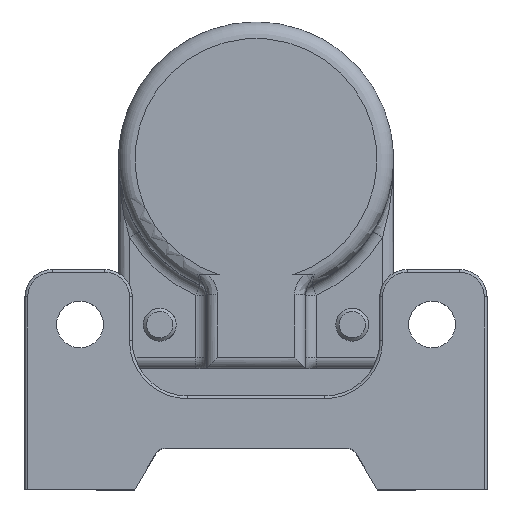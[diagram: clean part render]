
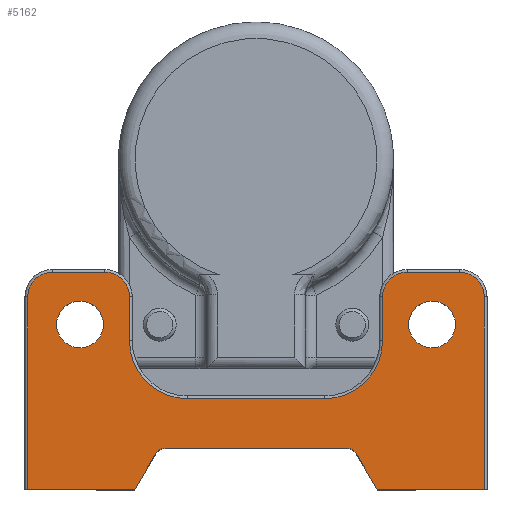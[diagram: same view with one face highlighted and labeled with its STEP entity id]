
A CAD part, top view. The second image highlights one B-rep face of the part: STEP entity #5162.
In plain terms, the highlighted planar face has unit normal (0, 0, 1).
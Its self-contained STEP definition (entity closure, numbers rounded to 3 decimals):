
#179=FACE_BOUND('',#711,.T.);
#180=FACE_BOUND('',#712,.T.);
#241=PLANE('',#5572);
#410=FACE_OUTER_BOUND('',#710,.T.);
#710=EDGE_LOOP('',(#3586,#3587,#3588,#3589,#3590,#3591,#3592,#3593,#3594,
#3595,#3596,#3597,#3598,#3599,#3600,#3601,#3602,#3603,#3604,#3605));
#711=EDGE_LOOP('',(#3606));
#712=EDGE_LOOP('',(#3607));
#987=LINE('',#7720,#1329);
#990=LINE('',#7730,#1332);
#1000=LINE('',#7773,#1342);
#1031=LINE('',#7896,#1373);
#1075=LINE('',#8099,#1417);
#1076=LINE('',#8103,#1418);
#1077=LINE('',#8107,#1419);
#1078=LINE('',#8111,#1420);
#1079=LINE('',#8115,#1421);
#1080=LINE('',#8119,#1422);
#1081=LINE('',#8122,#1423);
#1082=LINE('',#8123,#1424);
#1329=VECTOR('',#6156,10.);
#1332=VECTOR('',#6165,10.);
#1342=VECTOR('',#6189,10.);
#1373=VECTOR('',#6292,10.);
#1417=VECTOR('',#6482,10.);
#1418=VECTOR('',#6485,10.);
#1419=VECTOR('',#6488,10.);
#1420=VECTOR('',#6491,10.);
#1421=VECTOR('',#6494,10.);
#1422=VECTOR('',#6497,10.);
#1423=VECTOR('',#6500,10.);
#1424=VECTOR('',#6501,10.);
#1676=CIRCLE('',#5462,2.);
#1678=CIRCLE('',#5466,4.25);
#1680=CIRCLE('',#5469,4.25);
#1698=CIRCLE('',#5501,2.);
#1737=CIRCLE('',#5573,4.5);
#1738=CIRCLE('',#5574,4.5);
#1739=CIRCLE('',#5575,10.5);
#1740=CIRCLE('',#5576,10.5);
#1741=CIRCLE('',#5577,4.5);
#1742=CIRCLE('',#5578,4.5);
#2020=VERTEX_POINT('',#7717);
#2021=VERTEX_POINT('',#7719);
#2025=VERTEX_POINT('',#7729);
#2035=VERTEX_POINT('',#7757);
#2036=VERTEX_POINT('',#7759);
#2039=VERTEX_POINT('',#7772);
#2042=VERTEX_POINT('',#7780);
#2044=VERTEX_POINT('',#7786);
#2083=VERTEX_POINT('',#7895);
#2134=VERTEX_POINT('',#8097);
#2135=VERTEX_POINT('',#8098);
#2136=VERTEX_POINT('',#8100);
#2137=VERTEX_POINT('',#8102);
#2138=VERTEX_POINT('',#8104);
#2139=VERTEX_POINT('',#8106);
#2140=VERTEX_POINT('',#8108);
#2141=VERTEX_POINT('',#8110);
#2142=VERTEX_POINT('',#8112);
#2143=VERTEX_POINT('',#8114);
#2144=VERTEX_POINT('',#8116);
#2145=VERTEX_POINT('',#8118);
#2146=VERTEX_POINT('',#8120);
#2535=EDGE_CURVE('',#2020,#2021,#987,.T.);
#2540=EDGE_CURVE('',#2025,#2020,#990,.T.);
#2552=EDGE_CURVE('',#2035,#2036,#1676,.T.);
#2556=EDGE_CURVE('',#2039,#2035,#1000,.T.);
#2561=EDGE_CURVE('',#2042,#2042,#1678,.T.);
#2564=EDGE_CURVE('',#2044,#2044,#1680,.T.);
#2610=EDGE_CURVE('',#2036,#2083,#1031,.T.);
#2615=EDGE_CURVE('',#2083,#2025,#1698,.T.);
#2698=EDGE_CURVE('',#2134,#2135,#1075,.T.);
#2699=EDGE_CURVE('',#2136,#2134,#1737,.T.);
#2700=EDGE_CURVE('',#2137,#2136,#1076,.T.);
#2701=EDGE_CURVE('',#2138,#2137,#1738,.T.);
#2702=EDGE_CURVE('',#2139,#2138,#1077,.T.);
#2703=EDGE_CURVE('',#2140,#2139,#1739,.T.);
#2704=EDGE_CURVE('',#2141,#2140,#1078,.T.);
#2705=EDGE_CURVE('',#2142,#2141,#1740,.T.);
#2706=EDGE_CURVE('',#2143,#2142,#1079,.T.);
#2707=EDGE_CURVE('',#2144,#2143,#1741,.T.);
#2708=EDGE_CURVE('',#2145,#2144,#1080,.T.);
#2709=EDGE_CURVE('',#2146,#2145,#1742,.T.);
#2710=EDGE_CURVE('',#2021,#2146,#1081,.T.);
#2711=EDGE_CURVE('',#2135,#2039,#1082,.T.);
#3586=ORIENTED_EDGE('',*,*,#2698,.F.);
#3587=ORIENTED_EDGE('',*,*,#2699,.F.);
#3588=ORIENTED_EDGE('',*,*,#2700,.F.);
#3589=ORIENTED_EDGE('',*,*,#2701,.F.);
#3590=ORIENTED_EDGE('',*,*,#2702,.F.);
#3591=ORIENTED_EDGE('',*,*,#2703,.F.);
#3592=ORIENTED_EDGE('',*,*,#2704,.F.);
#3593=ORIENTED_EDGE('',*,*,#2705,.F.);
#3594=ORIENTED_EDGE('',*,*,#2706,.F.);
#3595=ORIENTED_EDGE('',*,*,#2707,.F.);
#3596=ORIENTED_EDGE('',*,*,#2708,.F.);
#3597=ORIENTED_EDGE('',*,*,#2709,.F.);
#3598=ORIENTED_EDGE('',*,*,#2710,.F.);
#3599=ORIENTED_EDGE('',*,*,#2535,.F.);
#3600=ORIENTED_EDGE('',*,*,#2540,.F.);
#3601=ORIENTED_EDGE('',*,*,#2615,.F.);
#3602=ORIENTED_EDGE('',*,*,#2610,.F.);
#3603=ORIENTED_EDGE('',*,*,#2552,.F.);
#3604=ORIENTED_EDGE('',*,*,#2556,.F.);
#3605=ORIENTED_EDGE('',*,*,#2711,.F.);
#3606=ORIENTED_EDGE('',*,*,#2564,.T.);
#3607=ORIENTED_EDGE('',*,*,#2561,.T.);
#5162=ADVANCED_FACE('',(#410,#179,#180),#241,.T.);
#5462=AXIS2_PLACEMENT_3D('',#7760,#6183,#6184);
#5466=AXIS2_PLACEMENT_3D('',#7782,#6197,#6198);
#5469=AXIS2_PLACEMENT_3D('',#7788,#6204,#6205);
#5501=AXIS2_PLACEMENT_3D('',#7914,#6297,#6298);
#5572=AXIS2_PLACEMENT_3D('',#8096,#6480,#6481);
#5573=AXIS2_PLACEMENT_3D('',#8101,#6483,#6484);
#5574=AXIS2_PLACEMENT_3D('',#8105,#6486,#6487);
#5575=AXIS2_PLACEMENT_3D('',#8109,#6489,#6490);
#5576=AXIS2_PLACEMENT_3D('',#8113,#6492,#6493);
#5577=AXIS2_PLACEMENT_3D('',#8117,#6495,#6496);
#5578=AXIS2_PLACEMENT_3D('',#8121,#6498,#6499);
#6156=DIRECTION('',(-1.,0.,0.));
#6165=DIRECTION('',(-0.5,-0.866,0.));
#6183=DIRECTION('center_axis',(0.,0.,1.));
#6184=DIRECTION('ref_axis',(-0.866,-0.5,0.));
#6189=DIRECTION('',(-0.5,0.866,0.));
#6197=DIRECTION('center_axis',(0.,0.,-1.));
#6198=DIRECTION('ref_axis',(-1.,0.,0.));
#6204=DIRECTION('center_axis',(0.,0.,-1.));
#6205=DIRECTION('ref_axis',(-1.,0.,0.));
#6292=DIRECTION('',(-1.,0.,0.));
#6297=DIRECTION('center_axis',(0.,0.,1.));
#6298=DIRECTION('ref_axis',(0.,-1.,0.));
#6480=DIRECTION('center_axis',(0.,0.,1.));
#6481=DIRECTION('ref_axis',(1.,0.,0.));
#6482=DIRECTION('',(0.,-1.,0.));
#6483=DIRECTION('center_axis',(0.,0.,-1.));
#6484=DIRECTION('ref_axis',(0.707,0.707,0.));
#6485=DIRECTION('',(1.,0.,0.));
#6486=DIRECTION('center_axis',(0.,0.,-1.));
#6487=DIRECTION('ref_axis',(-0.707,0.707,0.));
#6488=DIRECTION('',(0.,1.,0.));
#6489=DIRECTION('center_axis',(0.,0.,1.));
#6490=DIRECTION('ref_axis',(0.707,-0.707,0.));
#6491=DIRECTION('',(1.,0.,0.));
#6492=DIRECTION('center_axis',(0.,0.,1.));
#6493=DIRECTION('ref_axis',(-0.707,-0.707,0.));
#6494=DIRECTION('',(0.,-1.,0.));
#6495=DIRECTION('center_axis',(0.,0.,-1.));
#6496=DIRECTION('ref_axis',(0.707,0.707,0.));
#6497=DIRECTION('',(1.,0.,0.));
#6498=DIRECTION('center_axis',(0.,0.,-1.));
#6499=DIRECTION('ref_axis',(-0.707,0.707,0.));
#6500=DIRECTION('',(0.,1.,0.));
#6501=DIRECTION('',(-1.,0.,0.));
#7717=CARTESIAN_POINT('',(-22.,0.,59.));
#7719=CARTESIAN_POINT('',(-41.5,0.,59.));
#7720=CARTESIAN_POINT('',(-42.,0.,59.));
#7729=CARTESIAN_POINT('',(-18.247,6.5,59.));
#7730=CARTESIAN_POINT('',(-22.,0.,59.));
#7757=CARTESIAN_POINT('',(18.247,6.5,59.));
#7759=CARTESIAN_POINT('',(16.515,7.5,59.));
#7760=CARTESIAN_POINT('Origin',(16.515,5.5,59.));
#7772=CARTESIAN_POINT('',(22.,0.,59.));
#7773=CARTESIAN_POINT('',(18.247,6.5,59.));
#7780=CARTESIAN_POINT('',(-27.75,30.,59.));
#7782=CARTESIAN_POINT('Origin',(-32.,30.,59.));
#7786=CARTESIAN_POINT('',(36.25,30.,59.));
#7788=CARTESIAN_POINT('Origin',(32.,30.,59.));
#7895=CARTESIAN_POINT('',(-16.515,7.5,59.));
#7896=CARTESIAN_POINT('',(-16.515,7.5,59.));
#7914=CARTESIAN_POINT('Origin',(-16.515,5.5,59.));
#8096=CARTESIAN_POINT('Origin',(-22.158,20.292,59.));
#8097=CARTESIAN_POINT('',(41.5,35.,59.));
#8098=CARTESIAN_POINT('',(41.5,0.,59.));
#8099=CARTESIAN_POINT('',(41.5,27.646,59.));
#8100=CARTESIAN_POINT('',(37.,39.5,59.));
#8101=CARTESIAN_POINT('Origin',(37.,35.,59.));
#8102=CARTESIAN_POINT('',(27.5,39.5,59.));
#8103=CARTESIAN_POINT('',(2.421,39.5,59.));
#8104=CARTESIAN_POINT('',(23.,35.,59.));
#8105=CARTESIAN_POINT('Origin',(27.5,35.,59.));
#8106=CARTESIAN_POINT('',(23.,27.,59.));
#8107=CARTESIAN_POINT('',(23.,23.646,59.));
#8108=CARTESIAN_POINT('',(12.5,16.5,59.));
#8109=CARTESIAN_POINT('Origin',(12.5,27.,59.));
#8110=CARTESIAN_POINT('',(-12.5,16.5,59.));
#8111=CARTESIAN_POINT('',(-17.329,16.5,59.));
#8112=CARTESIAN_POINT('',(-23.,27.,59.));
#8113=CARTESIAN_POINT('Origin',(-12.5,27.,59.));
#8114=CARTESIAN_POINT('',(-23.,35.,59.));
#8115=CARTESIAN_POINT('',(-23.,27.646,59.));
#8116=CARTESIAN_POINT('',(-27.5,39.5,59.));
#8117=CARTESIAN_POINT('Origin',(-27.5,35.,59.));
#8118=CARTESIAN_POINT('',(-37.,39.5,59.));
#8119=CARTESIAN_POINT('',(-29.579,39.5,59.));
#8120=CARTESIAN_POINT('',(-41.5,35.,59.));
#8121=CARTESIAN_POINT('Origin',(-37.,35.,59.));
#8122=CARTESIAN_POINT('',(-41.5,10.146,59.));
#8123=CARTESIAN_POINT('',(22.,0.,59.));
